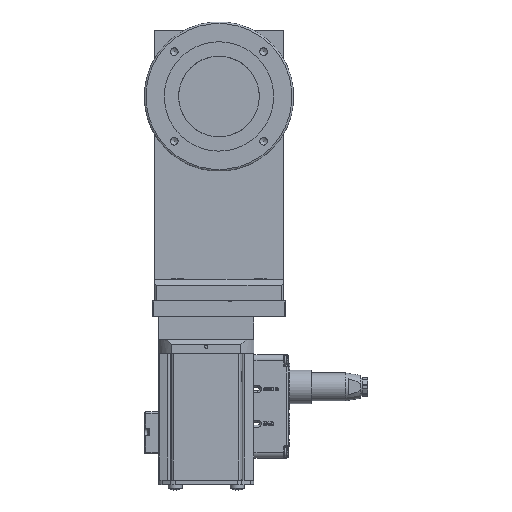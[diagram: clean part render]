
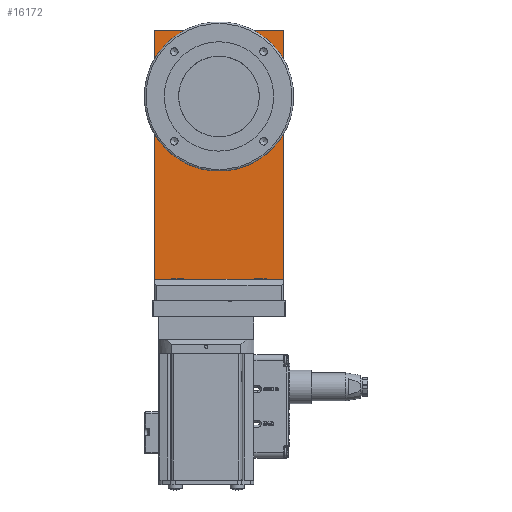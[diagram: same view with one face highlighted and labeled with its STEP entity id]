
A CAD part, top view. The second image highlights one B-rep face of the part: STEP entity #16172.
In plain terms, the highlighted planar face has unit normal (0, 0, 1).
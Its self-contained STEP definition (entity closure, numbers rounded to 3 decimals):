
#4242=LINE('',#58671,#7608);
#4247=LINE('',#58686,#7613);
#4249=LINE('',#58690,#7615);
#4252=LINE('',#58695,#7618);
#7608=VECTOR('',#48260,1.);
#7613=VECTOR('',#48267,1.);
#7615=VECTOR('',#48271,1.);
#7618=VECTOR('',#48276,1.);
#12941=PLANE('',#43838);
#16172=ADVANCED_FACE('',(#18489,#18490),#12941,.T.);
#18489=FACE_BOUND('',#20039,.T.);
#18490=FACE_BOUND('',#20040,.T.);
#20039=EDGE_LOOP('',(#24174,#24175,#24176,#24177));
#20040=EDGE_LOOP('',(#24178));
#24174=ORIENTED_EDGE('',*,*,#37867,.F.);
#24175=ORIENTED_EDGE('',*,*,#37873,.T.);
#24176=ORIENTED_EDGE('',*,*,#37878,.T.);
#24177=ORIENTED_EDGE('',*,*,#37875,.T.);
#24178=ORIENTED_EDGE('',*,*,#37880,.F.);
#33737=VERTEX_POINT('',#58670);
#33738=VERTEX_POINT('',#58672);
#33742=VERTEX_POINT('',#58685);
#33744=VERTEX_POINT('',#58691);
#33746=VERTEX_POINT('',#58700);
#37867=EDGE_CURVE('',#33737,#33738,#4242,.T.);
#37873=EDGE_CURVE('',#33737,#33742,#4247,.T.);
#37875=EDGE_CURVE('',#33744,#33738,#4249,.T.);
#37878=EDGE_CURVE('',#33742,#33744,#4252,.T.);
#37880=EDGE_CURVE('',#33746,#33746,#42372,.T.);
#42372=CIRCLE('',#43836,35.05);
#43836=AXIS2_PLACEMENT_3D('',#58699,#48281,#48282);
#43838=AXIS2_PLACEMENT_3D('',#58702,#48285,#48286);
#48260=DIRECTION('',(-1.,0.,0.));
#48267=DIRECTION('',(0.,1.,0.));
#48271=DIRECTION('',(0.,-1.,0.));
#48276=DIRECTION('',(-1.,0.,0.));
#48281=DIRECTION('',(0.,0.,1.));
#48282=DIRECTION('',(1.,0.,0.));
#48285=DIRECTION('',(0.,0.,1.));
#48286=DIRECTION('',(1.,0.,0.));
#58670=CARTESIAN_POINT('',(56.,-177.8,26.975));
#58671=CARTESIAN_POINT('',(0.,-177.8,26.975));
#58672=CARTESIAN_POINT('',(-56.,-177.8,26.975));
#58685=CARTESIAN_POINT('',(56.,57.05,26.975));
#58686=CARTESIAN_POINT('',(56.,-179.1,26.975));
#58690=CARTESIAN_POINT('',(-56.,57.05,26.975));
#58691=CARTESIAN_POINT('',(-56.,57.05,26.975));
#58695=CARTESIAN_POINT('',(56.,57.05,26.975));
#58699=CARTESIAN_POINT('',(0.,0.,26.975));
#58700=CARTESIAN_POINT('',(35.05,0.,26.975));
#58702=CARTESIAN_POINT('',(0.,0.,26.975));
